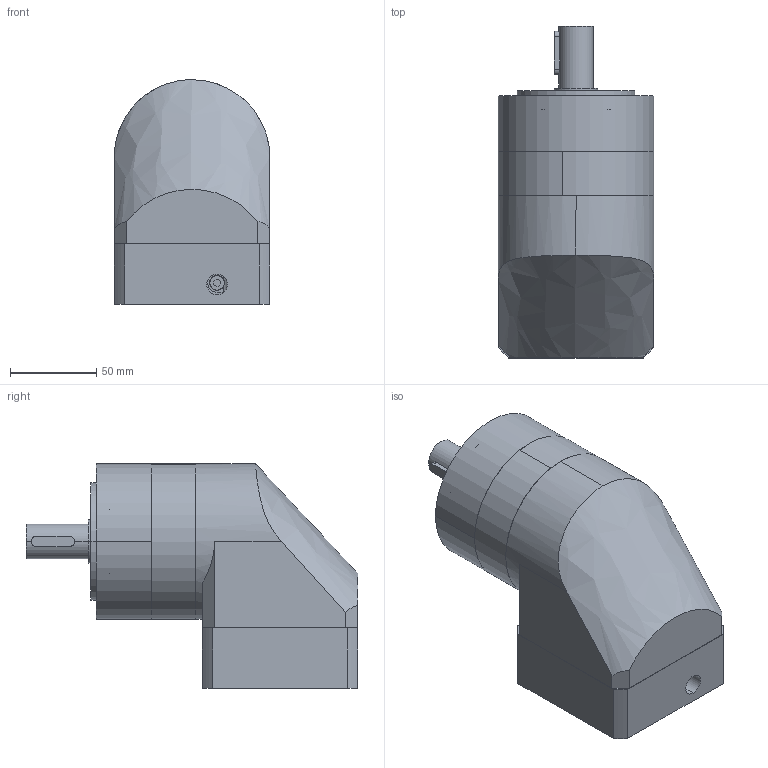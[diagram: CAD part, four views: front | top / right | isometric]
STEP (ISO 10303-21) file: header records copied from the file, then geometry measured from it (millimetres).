
FILE_DESCRIPTION (( 'STEP AP214' ), '1' );
FILE_NAME ('PVLN90-L1.STEP', '2020-09-18T06:09:19', ( '微软用户' ), ( '微软中国' ), 'SwSTEP 2.0', 'SolidWorks 2014', '' );
FILE_SCHEMA (( 'AUTOMOTIVE_DESIGN' ));
Length unit declared in the file: millimetre
Products named in the file (17): PER90-蟀諉啣; PER90 奻屳唳; PER90 κｳﾝﾈｦ-ﾓﾅｻｯ_ﾒｻｼｶﾄﾚｳﾝﾈｦ; PER90 眊极_揤翉; PVLN90-L1; 邧埴瑩 6x6x25; 粣創-3206A 30x62x23.8_2; M5 x 20; PER90-薊粣ん
Assembly tree (8 placements, depth 2):
  PER90-蟀諉啣
  PER90 奻屳唳
  PER90 κｳﾝﾈｦ-ﾓﾅｻｯ_ﾒｻｼｶﾄﾚｳﾝﾈｦ
  PER90 眊极_揤翉
  PVLN90-L1
    PER90 眊极_揤翉
    PER90 κｳﾝﾈｦ-ﾓﾅｻｯ_ﾒｻｼｶﾄﾚｳﾝﾈｦ
    PER90 奻屳唳
    PER90-蟀諉啣
    PER90-薊粣ん
    M5 x 20
    粣創-3206A 30x62x23.8_2
    邧埴瑩 6x6x25
Bounding box: 90 x 192 x 130 mm (x, y, z)
Volume: 1095555.1 mm3; surface area: 184164.3 mm2
Topology: 8 solids, 8 shells, 589 faces, 1626 edges, 1049 vertices
Faces by surface type: cylinder 216, plane 196, bspline 139, cone 38
Entity records: 29563 total; most frequent: CARTESIAN_POINT 8311, ORIENTED_EDGE 3196, DIRECTION 2794, EDGE_CURVE 1598, AXIS2_PLACEMENT_3D 1100, VERTEX_POINT 1049, EDGE_LOOP 681, CIRCLE 638
